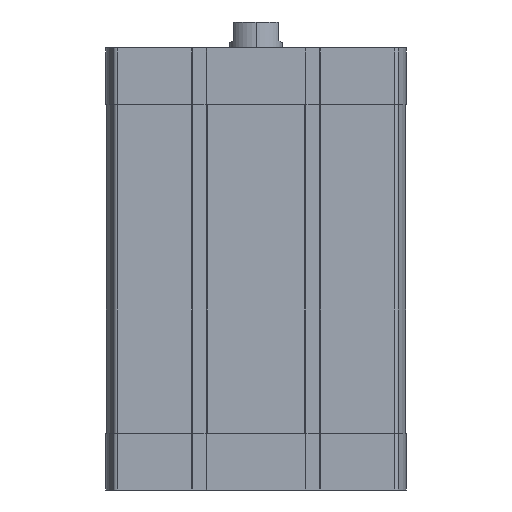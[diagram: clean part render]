
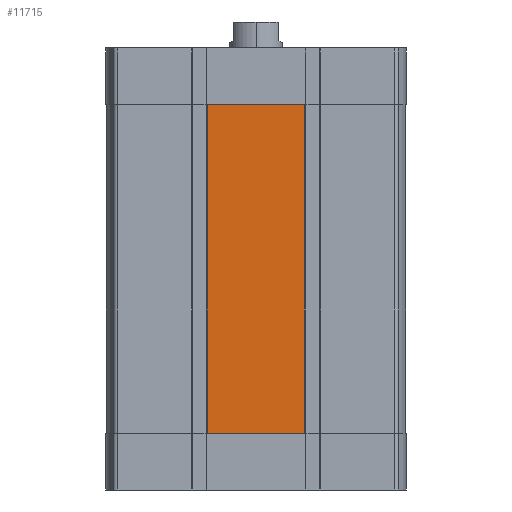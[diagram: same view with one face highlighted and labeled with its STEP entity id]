
A CAD part, left-side view. The second image highlights one B-rep face of the part: STEP entity #11715.
In plain terms, the highlighted planar face has unit normal (-1, 0, 0).
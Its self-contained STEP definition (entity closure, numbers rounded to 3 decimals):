
#337 = EDGE_CURVE ( 'NONE', #7685, #684, #9476, .T. ) ;
#469 = VECTOR ( 'NONE', #15377, 1000. ) ;
#523 = VECTOR ( 'NONE', #14492, 1000. ) ;
#684 = VERTEX_POINT ( 'NONE', #6838 ) ;
#878 = VECTOR ( 'NONE', #19945, 1000. ) ;
#1101 = CARTESIAN_POINT ( 'NONE',  ( -56.5, -18.345, -145.5 ) ) ;
#1943 = ORIENTED_EDGE ( 'NONE', *, *, #7579, .F. ) ;
#2675 = EDGE_CURVE ( 'NONE', #3251, #7685, #16256, .T. ) ;
#2849 = ORIENTED_EDGE ( 'NONE', *, *, #14016, .F. ) ;
#3251 = VERTEX_POINT ( 'NONE', #15597 ) ;
#5143 = DIRECTION ( 'NONE',  ( 0., -1., 0. ) ) ;
#6413 = DIRECTION ( 'NONE',  ( -1., 0., 0. ) ) ;
#6838 = CARTESIAN_POINT ( 'NONE',  ( -56.5, -18.345, -21.5 ) ) ;
#7579 = EDGE_CURVE ( 'NONE', #3251, #14327, #8732, .T. ) ;
#7685 = VERTEX_POINT ( 'NONE', #18596 ) ;
#8219 = CARTESIAN_POINT ( 'NONE',  ( -56.5, 18.345, -145.5 ) ) ;
#8732 = LINE ( 'NONE', #18195, #878 ) ;
#9390 = PLANE ( 'NONE',  #16021 ) ;
#9476 = LINE ( 'NONE', #1101, #469 ) ;
#9652 = LINE ( 'NONE', #12941, #17656 ) ;
#11365 = EDGE_LOOP ( 'NONE', ( #2849, #1943, #19946, #19756 ) ) ;
#11715 = ADVANCED_FACE ( 'NONE', ( #17615 ), #9390, .T. ) ;
#12941 = CARTESIAN_POINT ( 'NONE',  ( -56.5, 18.345, -21.5 ) ) ;
#14016 = EDGE_CURVE ( 'NONE', #14327, #684, #9652, .T. ) ;
#14327 = VERTEX_POINT ( 'NONE', #15903 ) ;
#14492 = DIRECTION ( 'NONE',  ( 0., -1., 0. ) ) ;
#15377 = DIRECTION ( 'NONE',  ( 0., 0., 1. ) ) ;
#15597 = CARTESIAN_POINT ( 'NONE',  ( -56.5, 18.345, -145.5 ) ) ;
#15858 = CARTESIAN_POINT ( 'NONE',  ( -56.5, 18.345, -145.5 ) ) ;
#15903 = CARTESIAN_POINT ( 'NONE',  ( -56.5, 18.345, -21.5 ) ) ;
#16021 = AXIS2_PLACEMENT_3D ( 'NONE', #15858, #6413, #19254 ) ;
#16256 = LINE ( 'NONE', #8219, #523 ) ;
#17615 = FACE_OUTER_BOUND ( 'NONE', #11365, .T. ) ;
#17656 = VECTOR ( 'NONE', #5143, 1000. ) ;
#18195 = CARTESIAN_POINT ( 'NONE',  ( -56.5, 18.345, -145.5 ) ) ;
#18596 = CARTESIAN_POINT ( 'NONE',  ( -56.5, -18.345, -145.5 ) ) ;
#19254 = DIRECTION ( 'NONE',  ( 0., 0., 1. ) ) ;
#19756 = ORIENTED_EDGE ( 'NONE', *, *, #337, .T. ) ;
#19945 = DIRECTION ( 'NONE',  ( 0., 0., 1. ) ) ;
#19946 = ORIENTED_EDGE ( 'NONE', *, *, #2675, .T. ) ;
